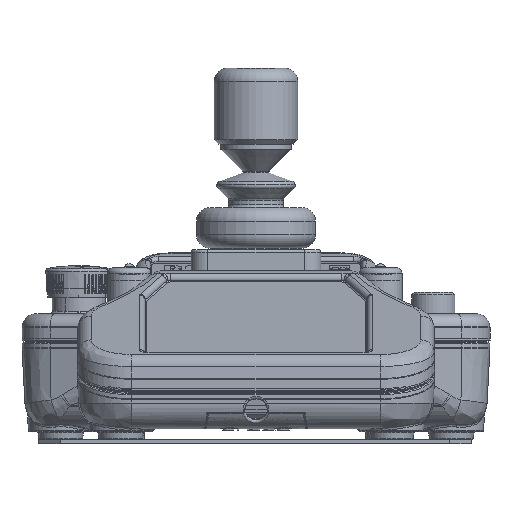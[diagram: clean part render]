
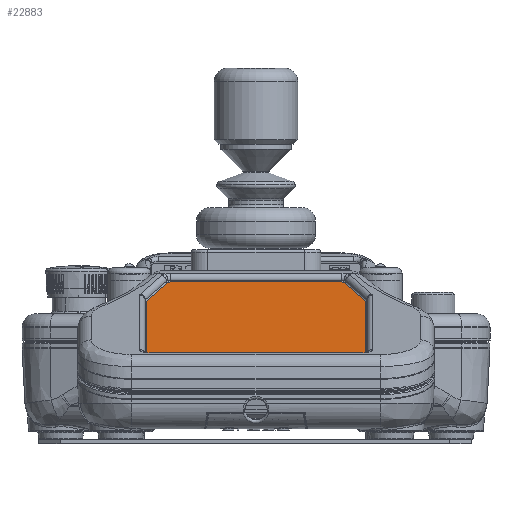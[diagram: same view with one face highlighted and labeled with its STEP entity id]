
A CAD part, front view. The second image highlights one B-rep face of the part: STEP entity #22883.
In plain terms, the highlighted planar face has unit normal (0, -0.342, 0.94).
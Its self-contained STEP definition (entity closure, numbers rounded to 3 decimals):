
#4805=B_SPLINE_CURVE_WITH_KNOTS('',3,(#125301,#125302,#125303,#125304,#125305,
#125306,#125307),.UNSPECIFIED.,.F.,.F.,(4,3,4),(0.,0.571,1.),
 .UNSPECIFIED.);
#4806=B_SPLINE_CURVE_WITH_KNOTS('',3,(#125331,#125332,#125333,#125334,#125335,
#125336,#125337),.UNSPECIFIED.,.F.,.F.,(4,3,4),(0.,0.571,1.),
 .UNSPECIFIED.);
#7812=LINE('',#125298,#12543);
#7813=LINE('',#125311,#12544);
#7814=LINE('',#125315,#12545);
#7815=LINE('',#125319,#12546);
#7816=LINE('',#125323,#12547);
#7817=LINE('',#125327,#12548);
#12543=VECTOR('',#92941,1.);
#12544=VECTOR('',#92944,1.);
#12545=VECTOR('',#92947,1.);
#12546=VECTOR('',#92950,1.);
#12547=VECTOR('',#92953,1.);
#12548=VECTOR('',#92956,1.);
#20703=PLANE('',#83209);
#22883=ADVANCED_FACE('',(#27332),#20703,.T.);
#27332=FACE_OUTER_BOUND('',#31749,.T.);
#31749=EDGE_LOOP('',(#42047,#42048,#42049,#42050,#42051,#42052,#42053,#42054,
#42055,#42056,#42057,#42058,#42059,#42060));
#42047=ORIENTED_EDGE('',*,*,#70880,.T.);
#42048=ORIENTED_EDGE('',*,*,#70881,.T.);
#42049=ORIENTED_EDGE('',*,*,#70882,.T.);
#42050=ORIENTED_EDGE('',*,*,#70883,.T.);
#42051=ORIENTED_EDGE('',*,*,#70884,.T.);
#42052=ORIENTED_EDGE('',*,*,#70885,.T.);
#42053=ORIENTED_EDGE('',*,*,#70886,.T.);
#42054=ORIENTED_EDGE('',*,*,#70887,.T.);
#42055=ORIENTED_EDGE('',*,*,#70888,.T.);
#42056=ORIENTED_EDGE('',*,*,#70889,.T.);
#42057=ORIENTED_EDGE('',*,*,#70890,.T.);
#42058=ORIENTED_EDGE('',*,*,#70891,.T.);
#42059=ORIENTED_EDGE('',*,*,#70892,.T.);
#42060=ORIENTED_EDGE('',*,*,#70893,.T.);
#62341=VERTEX_POINT('',#125299);
#62342=VERTEX_POINT('',#125300);
#62343=VERTEX_POINT('',#125308);
#62344=VERTEX_POINT('',#125310);
#62345=VERTEX_POINT('',#125312);
#62346=VERTEX_POINT('',#125314);
#62347=VERTEX_POINT('',#125316);
#62348=VERTEX_POINT('',#125318);
#62349=VERTEX_POINT('',#125320);
#62350=VERTEX_POINT('',#125322);
#62351=VERTEX_POINT('',#125324);
#62352=VERTEX_POINT('',#125326);
#62353=VERTEX_POINT('',#125328);
#62354=VERTEX_POINT('',#125330);
#70880=EDGE_CURVE('',#62341,#62342,#7812,.T.);
#70881=EDGE_CURVE('',#62342,#62343,#4805,.T.);
#70882=EDGE_CURVE('',#62343,#62344,#79510,.T.);
#70883=EDGE_CURVE('',#62344,#62345,#7813,.T.);
#70884=EDGE_CURVE('',#62345,#62346,#79511,.T.);
#70885=EDGE_CURVE('',#62346,#62347,#7814,.T.);
#70886=EDGE_CURVE('',#62347,#62348,#79512,.T.);
#70887=EDGE_CURVE('',#62348,#62349,#7815,.T.);
#70888=EDGE_CURVE('',#62349,#62350,#79513,.T.);
#70889=EDGE_CURVE('',#62350,#62351,#7816,.T.);
#70890=EDGE_CURVE('',#62351,#62352,#79514,.T.);
#70891=EDGE_CURVE('',#62352,#62353,#7817,.T.);
#70892=EDGE_CURVE('',#62353,#62354,#79515,.T.);
#70893=EDGE_CURVE('',#62354,#62341,#4806,.T.);
#79510=CIRCLE('',#83203,1.);
#79511=CIRCLE('',#83204,1.);
#79512=CIRCLE('',#83205,1.);
#79513=CIRCLE('',#83206,1.);
#79514=CIRCLE('',#83207,1.);
#79515=CIRCLE('',#83208,1.);
#83203=AXIS2_PLACEMENT_3D('',#125309,#92942,#92943);
#83204=AXIS2_PLACEMENT_3D('',#125313,#92945,#92946);
#83205=AXIS2_PLACEMENT_3D('',#125317,#92948,#92949);
#83206=AXIS2_PLACEMENT_3D('',#125321,#92951,#92952);
#83207=AXIS2_PLACEMENT_3D('',#125325,#92954,#92955);
#83208=AXIS2_PLACEMENT_3D('',#125329,#92957,#92958);
#83209=AXIS2_PLACEMENT_3D('',#125338,#92959,#92960);
#92941=DIRECTION('',(-1.,0.,0.));
#92942=DIRECTION('',(0.,-0.342,0.94));
#92943=DIRECTION('',(0.,-0.94,-0.342));
#92944=DIRECTION('',(-0.36,-0.877,-0.319));
#92945=DIRECTION('',(0.,-0.342,0.94));
#92946=DIRECTION('',(0.,-0.94,-0.342));
#92947=DIRECTION('',(0.,-0.94,-0.342));
#92948=DIRECTION('',(0.,-0.342,0.94));
#92949=DIRECTION('',(0.,-0.94,-0.342));
#92950=DIRECTION('',(1.,0.,0.));
#92951=DIRECTION('',(0.,-0.342,0.94));
#92952=DIRECTION('',(0.,-0.94,-0.342));
#92953=DIRECTION('',(0.,0.94,0.342));
#92954=DIRECTION('',(0.,-0.342,0.94));
#92955=DIRECTION('',(0.,-0.94,-0.342));
#92956=DIRECTION('',(-0.36,0.877,0.319));
#92957=DIRECTION('',(0.,-0.342,0.94));
#92958=DIRECTION('',(0.,-0.94,-0.342));
#92959=DIRECTION('',(0.,-0.342,0.94));
#92960=DIRECTION('',(0.,-0.94,-0.342));
#125298=CARTESIAN_POINT('',(207.557,83.479,-72.207));
#125299=CARTESIAN_POINT('',(270.984,83.479,-72.207));
#125300=CARTESIAN_POINT('',(207.557,83.479,-72.207));
#125301=CARTESIAN_POINT('',(207.557,83.479,-72.207));
#125302=CARTESIAN_POINT('',(207.445,83.479,-72.207));
#125303=CARTESIAN_POINT('',(207.331,83.461,-72.213));
#125304=CARTESIAN_POINT('',(207.226,83.426,-72.226));
#125305=CARTESIAN_POINT('',(207.146,83.4,-72.236));
#125306=CARTESIAN_POINT('',(207.069,83.363,-72.249));
#125307=CARTESIAN_POINT('',(206.999,83.319,-72.265));
#125308=CARTESIAN_POINT('',(206.999,83.319,-72.265));
#125309=CARTESIAN_POINT('',(207.557,82.539,-72.549));
#125310=CARTESIAN_POINT('',(206.624,82.877,-72.426));
#125311=CARTESIAN_POINT('',(198.838,63.909,-79.33));
#125312=CARTESIAN_POINT('',(198.838,63.909,-79.33));
#125313=CARTESIAN_POINT('',(199.771,63.57,-79.453));
#125314=CARTESIAN_POINT('',(198.771,63.57,-79.453));
#125315=CARTESIAN_POINT('',(198.771,8.304,-99.568));
#125316=CARTESIAN_POINT('',(198.771,8.304,-99.568));
#125317=CARTESIAN_POINT('',(199.771,8.304,-99.568));
#125318=CARTESIAN_POINT('',(199.771,7.364,-99.91));
#125319=CARTESIAN_POINT('',(278.771,7.364,-99.91));
#125320=CARTESIAN_POINT('',(278.771,7.364,-99.91));
#125321=CARTESIAN_POINT('',(278.771,8.304,-99.568));
#125322=CARTESIAN_POINT('',(279.771,8.304,-99.568));
#125323=CARTESIAN_POINT('',(279.771,63.57,-79.453));
#125324=CARTESIAN_POINT('',(279.771,63.57,-79.453));
#125325=CARTESIAN_POINT('',(278.771,63.57,-79.453));
#125326=CARTESIAN_POINT('',(279.704,63.909,-79.33));
#125327=CARTESIAN_POINT('',(271.917,82.877,-72.426));
#125328=CARTESIAN_POINT('',(271.917,82.877,-72.426));
#125329=CARTESIAN_POINT('',(270.984,82.539,-72.549));
#125330=CARTESIAN_POINT('',(271.542,83.319,-72.265));
#125331=CARTESIAN_POINT('',(271.542,83.319,-72.265));
#125332=CARTESIAN_POINT('',(271.45,83.378,-72.244));
#125333=CARTESIAN_POINT('',(271.345,83.422,-72.227));
#125334=CARTESIAN_POINT('',(271.236,83.449,-72.218));
#125335=CARTESIAN_POINT('',(271.154,83.469,-72.21));
#125336=CARTESIAN_POINT('',(271.069,83.479,-72.207));
#125337=CARTESIAN_POINT('',(270.984,83.479,-72.207));
#125338=CARTESIAN_POINT('',(196.521,85.593,-71.437));
